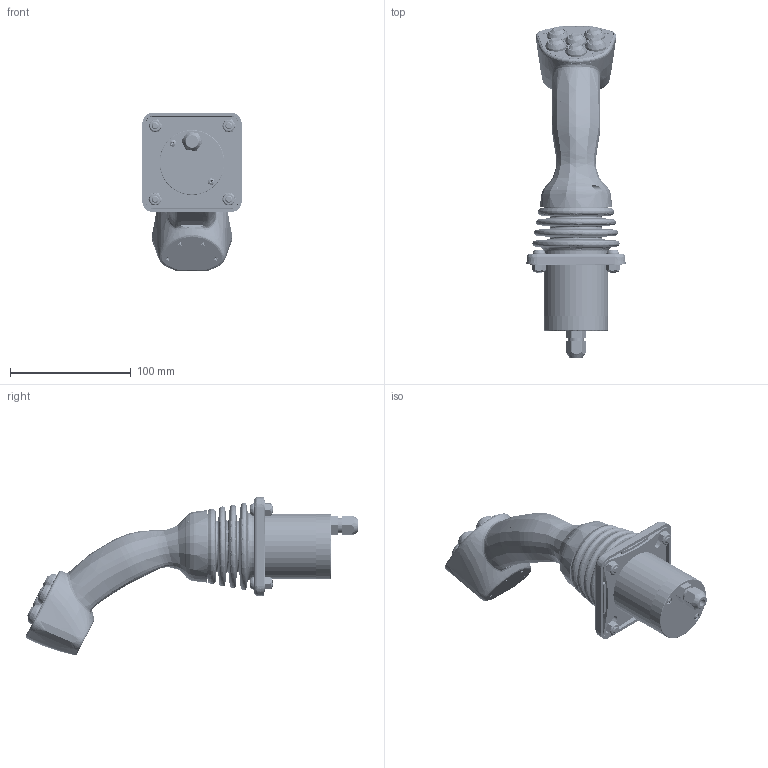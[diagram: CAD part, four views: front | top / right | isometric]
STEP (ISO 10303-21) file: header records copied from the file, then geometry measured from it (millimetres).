
FILE_DESCRIPTION (( 'STEP AP214' ), '1' );
FILE_NAME ('TRY52_15171600.STEP', '2016-02-26T11:47:53', ( '' ), ( '' ), 'SwSTEP 2.0', 'SolidWorks 2016', '' );
FILE_SCHEMA (( 'AUTOMOTIVE_DESIGN' ));
Length unit declared in the file: millimetre
Products named in the file (19): 505-099_Assembly; TRY52_15171600; CJ3400 LOWER FACE; 900-721_BootMsCjSilicone_Rev_B; A1094_Plug, CJ, JS_rev1; A5034_BootRetainerCJTop_Rev_A; CJ3400 UPPER FACE; A0852_Adaptor, PCB, MS, #1_revB; A0639_Skid Plate, 1.895in OD_revA; Pan Cross Head_AI_CR-PHMS 0.112-40x0.875x0.875-N; 900-737_93625A250; 900-736_92095A238; A0857_HOUSING, BOT, MS, 0.48IN TAP''''D_rev 1; dummy-front screw_91420A120; 900-231_Shaft, MS, 4.57in, SS_rev C; A0834_BEZEL, MS, #2_rev3_DAL Housing; A0833_HOUSING, MS, DROP-IN, #2_revB_DAL Housing; MF3 rev8.10_no deadman; IPR3SAD
Assembly tree (48 placements, depth 2):
  TRY52_15171600
    MF3 rev8.10_no deadman
    A0833_HOUSING, MS, DROP-IN, #2_revB_DAL Housing
    A0834_BEZEL, MS, #2_rev3_DAL Housing
    900-231_Shaft, MS, 4.57in, SS_rev C
    dummy-front screw_91420A120  x8
    A0857_HOUSING, BOT, MS, 0.48IN TAP''''D_rev 1
    900-736_92095A238  x4
    900-737_93625A250  x4
    Pan Cross Head_AI_CR-PHMS 0.112-40x0.875x0.875-N  x12
    A0639_Skid Plate, 1.895in OD_revA
    A0852_Adaptor, PCB, MS, #1_revB
    CJ3400 UPPER FACE  x2
    A5034_BootRetainerCJTop_Rev_A
    A1094_Plug, CJ, JS_rev1
    900-721_BootMsCjSilicone_Rev_B
    CJ3400 LOWER FACE
    505-099_Assembly
    IPR3SAD  x6
Bounding box: 82.2 x 275.15 x 131.16 mm (x, y, z)
Volume: 272494.1 mm3; surface area: 268492.5 mm2
Topology: 54 solids, 282 shells, 6652 faces, 16765 edges, 10608 vertices
Faces by surface type: cylinder 2340, bspline 1446, cone 1445, plane 1421
Entity records: 246138 total; most frequent: CARTESIAN_POINT 160380, ORIENTED_EDGE 19040, DIRECTION 14895, EDGE_CURVE 10020, VERTEX_POINT 6650, AXIS2_PLACEMENT_3D 5661, EDGE_LOOP 4148, FACE_OUTER_BOUND 3772
